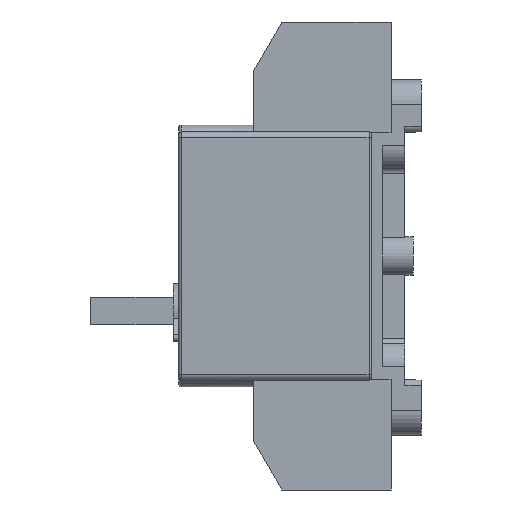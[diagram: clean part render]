
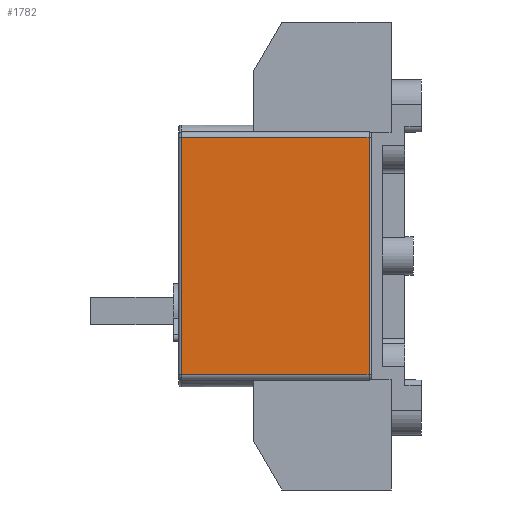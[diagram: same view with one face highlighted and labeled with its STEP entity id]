
A CAD part, left-side view. The second image highlights one B-rep face of the part: STEP entity #1782.
In plain terms, the highlighted planar face has unit normal (-1, 0, 0).
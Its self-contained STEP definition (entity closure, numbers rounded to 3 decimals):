
#281=FACE_OUTER_BOUND('',#2503,.T.);
#651=LINE('',#9341,#1183);
#804=LINE('',#10084,#1336);
#811=LINE('',#10136,#1343);
#812=LINE('',#10138,#1344);
#1183=VECTOR('',#7551,1.);
#1336=VECTOR('',#8198,1.);
#1343=VECTOR('',#8223,1.);
#1344=VECTOR('',#8226,1.);
#1782=ADVANCED_FACE('',(#281),#1963,.F.);
#1963=PLANE('',#6522);
#2503=EDGE_LOOP('',(#4000,#4001,#4002,#4003));
#4000=ORIENTED_EDGE('',*,*,#5621,.F.);
#4001=ORIENTED_EDGE('',*,*,#5607,.T.);
#4002=ORIENTED_EDGE('',*,*,#5622,.T.);
#4003=ORIENTED_EDGE('',*,*,#5305,.T.);
#4588=VERTEX_POINT('',#9334);
#4590=VERTEX_POINT('',#9340);
#4785=VERTEX_POINT('',#10051);
#4789=VERTEX_POINT('',#10083);
#5305=EDGE_CURVE('',#4588,#4590,#651,.T.);
#5607=EDGE_CURVE('',#4785,#4789,#804,.T.);
#5621=EDGE_CURVE('',#4785,#4590,#811,.T.);
#5622=EDGE_CURVE('',#4789,#4588,#812,.T.);
#6522=AXIS2_PLACEMENT_3D('',#10139,#8227,#8228);
#7551=DIRECTION('',(0.,0.,1.));
#8198=DIRECTION('',(0.,0.,-1.));
#8223=DIRECTION('',(0.,-1.,0.));
#8226=DIRECTION('',(0.,-1.,0.));
#8227=DIRECTION('',(1.,0.,0.));
#8228=DIRECTION('',(0.,0.,-1.));
#9334=CARTESIAN_POINT('',(-41.,1.,-43.));
#9340=CARTESIAN_POINT('',(-41.,1.,43.));
#9341=CARTESIAN_POINT('',(-41.,1.,-43.));
#10051=CARTESIAN_POINT('',(-41.,69.,43.));
#10083=CARTESIAN_POINT('',(-41.,69.,-43.));
#10084=CARTESIAN_POINT('',(-41.,69.,-43.));
#10136=CARTESIAN_POINT('',(-41.,35.,43.));
#10138=CARTESIAN_POINT('',(-41.,35.,-43.));
#10139=CARTESIAN_POINT('',(-41.,35.,-43.));
